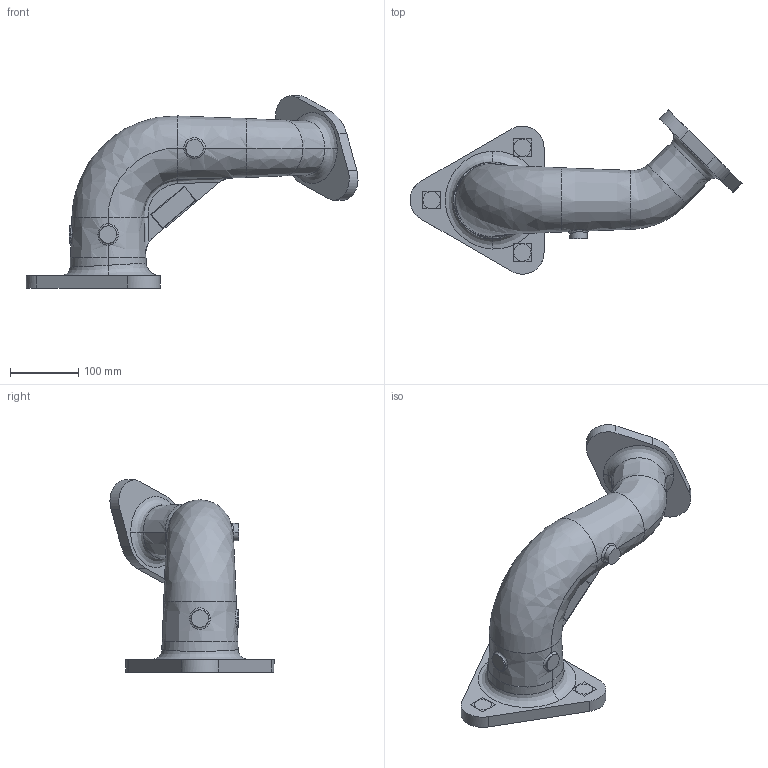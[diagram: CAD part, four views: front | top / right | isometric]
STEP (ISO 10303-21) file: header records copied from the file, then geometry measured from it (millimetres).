
FILE_DESCRIPTION(/* description */ ('CAx-IF Rec.Pracs.---Representation and Presentation of Product Manufacturing Information (PMI)---4.0---2014-10-13','CAx-IF Rec.Pracs.---3D Tessellated Geometry---0.4---2014-09-14','2;1'),/* implementation_level */ '2;1');
FILE_NAME(/* name */ 'DB083038_0001',/* time_stamp */ '2020-04-15T13:38:44+02:00',/* author */ (''),/* organization */ (''),/* preprocessor_version */ 'ST-DEVELOPER v16.7',/* originating_system */ $,/* authorisation */ $);
FILE_SCHEMA (('AP242_MANAGED_MODEL_BASED_3D_ENGINEERING_MIM_LF { 1 0 10303 442 20130219 1 4 }'));
Products named in the file (6): DB083038_0001; DB083038_0001_WF; DB083038_0001_SOLIDS; Section Geometry; SEC_B-B; SectionCurvesOf_SEC_B-B
Assembly tree (5 placements, depth 4):
  DB083038_0001
    DB083038_0001_WF
    DB083038_0001_SOLIDS
    Section Geometry
      SEC_B-B
        SectionCurvesOf_SEC_B-B
Bounding box: 487.55 x 240.86 x 282.36 mm (x, y, z)
Volume: 1955592.8 mm3; surface area: 439986.5 mm2
Topology: 2 solids, 12 shells, 113 faces, 360 edges, 339 vertices
Faces by surface type: bspline 112, plane 1
Entity records: 135855 total; most frequent: CARTESIAN_POINT 131293, ORIENTED_EDGE 502, DIRECTION 301, B_SPLINE_CURVE_WITH_KNOTS 297, SHAPE_ASPECT 258, EDGE_CURVE 256, GEOMETRIC_ITEM_SPECIFIC_USAGE 246, SHAPE_ASPECT_RELATIONSHIP 240
